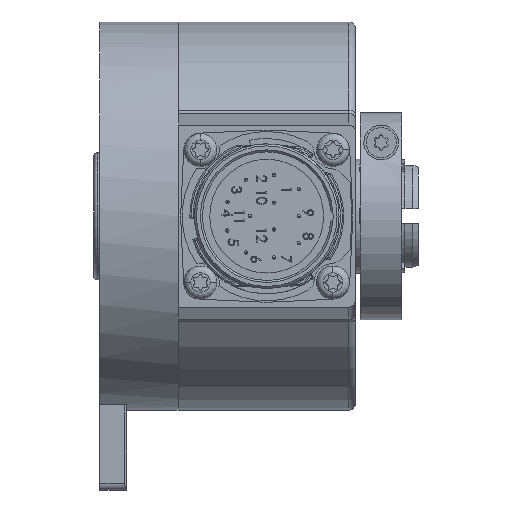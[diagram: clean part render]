
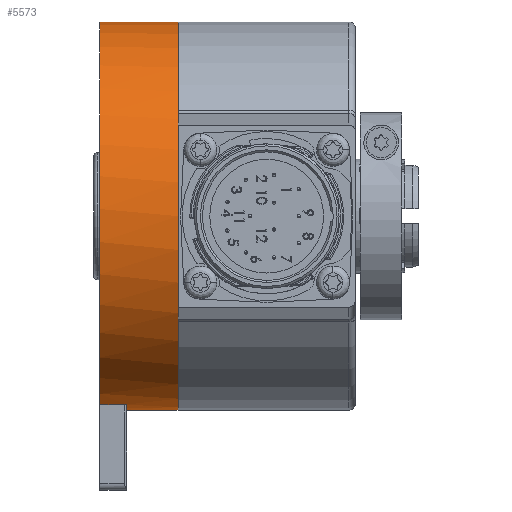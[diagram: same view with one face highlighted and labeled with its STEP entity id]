
A CAD part, front view. The second image highlights one B-rep face of the part: STEP entity #5573.
In plain terms, the highlighted cylindrical face has radius 29 mm (diameter 58 mm), a partial arc.
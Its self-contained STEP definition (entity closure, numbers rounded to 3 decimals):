
#672 = DIRECTION ( 'NONE',  ( 1., 0., 0. ) ) ;
#1409 = ORIENTED_EDGE ( 'NONE', *, *, #20601, .F. ) ;
#2759 = CIRCLE ( 'NONE', #17205, 29. ) ;
#2820 = VERTEX_POINT ( 'NONE', #9502 ) ;
#3000 = VECTOR ( 'NONE', #8413, 1000. ) ;
#4270 = VERTEX_POINT ( 'NONE', #21500 ) ;
#4774 = VERTEX_POINT ( 'NONE', #9177 ) ;
#5093 = VERTEX_POINT ( 'NONE', #24684 ) ;
#5236 = DIRECTION ( 'NONE',  ( 0., 0., -1. ) ) ;
#5464 = CIRCLE ( 'NONE', #9784, 29. ) ;
#5573 = ADVANCED_FACE ( 'NONE', ( #26863 ), #20104, .T. ) ;
#6612 = CARTESIAN_POINT ( 'NONE',  ( 8.068, 25.423, 29. ) ) ;
#7903 = CARTESIAN_POINT ( 'NONE',  ( -3.622, 18.423, -28.142 ) ) ;
#8413 = DIRECTION ( 'NONE',  ( 1., 0., 0. ) ) ;
#9123 = VERTEX_POINT ( 'NONE', #7903 ) ;
#9177 = CARTESIAN_POINT ( 'NONE',  ( -3.622, 25.423, 29. ) ) ;
#9502 = CARTESIAN_POINT ( 'NONE',  ( 0.378, 25.423, -29. ) ) ;
#9784 = AXIS2_PLACEMENT_3D ( 'NONE', #17272, #10033, #5236 ) ;
#9851 = LINE ( 'NONE', #19045, #21368 ) ;
#10033 = DIRECTION ( 'NONE',  ( 1., 0., 0. ) ) ;
#11322 = CARTESIAN_POINT ( 'NONE',  ( 8.068, 25.423, 0. ) ) ;
#11615 = EDGE_CURVE ( 'NONE', #2820, #12419, #15478, .T. ) ;
#12082 = VECTOR ( 'NONE', #20320, 1000. ) ;
#12419 = VERTEX_POINT ( 'NONE', #24502 ) ;
#13110 = EDGE_CURVE ( 'NONE', #4774, #5093, #29060, .T. ) ;
#13305 = EDGE_CURVE ( 'NONE', #5093, #12419, #5464, .T. ) ;
#14659 = DIRECTION ( 'NONE',  ( -1., 0., 0. ) ) ;
#15478 = LINE ( 'NONE', #15782, #12082 ) ;
#15625 = ORIENTED_EDGE ( 'NONE', *, *, #13110, .F. ) ;
#15782 = CARTESIAN_POINT ( 'NONE',  ( 8.068, 25.423, -29. ) ) ;
#17205 = AXIS2_PLACEMENT_3D ( 'NONE', #28420, #672, #24212 ) ;
#17272 = CARTESIAN_POINT ( 'NONE',  ( 8.068, 25.423, 0. ) ) ;
#17816 = ORIENTED_EDGE ( 'NONE', *, *, #18276, .T. ) ;
#18276 = EDGE_CURVE ( 'NONE', #4270, #2820, #28961, .T. ) ;
#18908 = ORIENTED_EDGE ( 'NONE', *, *, #26680, .T. ) ;
#19045 = CARTESIAN_POINT ( 'NONE',  ( 8.068, 18.423, -28.142 ) ) ;
#20104 = CYLINDRICAL_SURFACE ( 'NONE', #25868, 29. ) ;
#20320 = DIRECTION ( 'NONE',  ( 1., 0., 0. ) ) ;
#20551 = DIRECTION ( 'NONE',  ( 0., 0., -1. ) ) ;
#20601 = EDGE_CURVE ( 'NONE', #4270, #9123, #9851, .T. ) ;
#21306 = DIRECTION ( 'NONE',  ( 1., 0., 0. ) ) ;
#21368 = VECTOR ( 'NONE', #14659, 1000. ) ;
#21500 = CARTESIAN_POINT ( 'NONE',  ( 0.378, 18.423, -28.142 ) ) ;
#23248 = CARTESIAN_POINT ( 'NONE',  ( 0.378, 25.423, 0. ) ) ;
#23515 = EDGE_LOOP ( 'NONE', ( #15625, #18908, #1409, #17816, #24261, #27261 ) ) ;
#24212 = DIRECTION ( 'NONE',  ( 0., 0., -1. ) ) ;
#24261 = ORIENTED_EDGE ( 'NONE', *, *, #11615, .T. ) ;
#24502 = CARTESIAN_POINT ( 'NONE',  ( 8.068, 25.423, -29. ) ) ;
#24684 = CARTESIAN_POINT ( 'NONE',  ( 8.068, 25.423, 29. ) ) ;
#24767 = DIRECTION ( 'NONE',  ( 1., 0., 0. ) ) ;
#25584 = AXIS2_PLACEMENT_3D ( 'NONE', #23248, #21306, #27909 ) ;
#25868 = AXIS2_PLACEMENT_3D ( 'NONE', #11322, #24767, #20551 ) ;
#26680 = EDGE_CURVE ( 'NONE', #4774, #9123, #2759, .T. ) ;
#26863 = FACE_OUTER_BOUND ( 'NONE', #23515, .T. ) ;
#27261 = ORIENTED_EDGE ( 'NONE', *, *, #13305, .F. ) ;
#27909 = DIRECTION ( 'NONE',  ( 0., 0., 1. ) ) ;
#28420 = CARTESIAN_POINT ( 'NONE',  ( -3.622, 25.423, 0. ) ) ;
#28961 = CIRCLE ( 'NONE', #25584, 29. ) ;
#29060 = LINE ( 'NONE', #6612, #3000 ) ;
